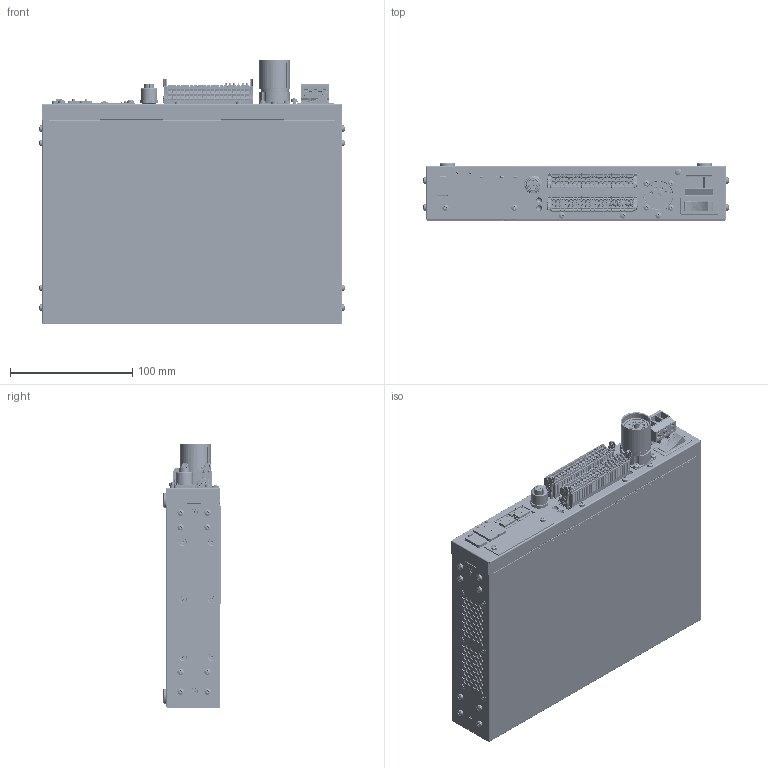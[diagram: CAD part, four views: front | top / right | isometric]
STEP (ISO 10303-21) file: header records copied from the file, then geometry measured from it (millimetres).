
FILE_DESCRIPTION (( 'STEP AP203' ), '1' );
FILE_NAME ('眻霜mini諷秶眊.STEP', '2024-04-16T04:41:45', ( 'hello' ), ( '' ), 'SwSTEP 2.0', 'SolidWorks 2018', '' );
FILE_SCHEMA (( 'CONFIG_CONTROL_DESIGN' ));
Products named in the file (2): 眻霜mini諷秶眊
Bounding box: 249.74 x 46.6 x 216.4 mm (x, y, z)
Surface area: 245440.5 mm2 (no closed solid volume)
Topology: 0 solids, 1202 shells, 24751 faces, 66507 edges, 43073 vertices
Faces by surface type: plane 13934, cylinder 5554, bspline 3003, cone 2206, torus 52, sphere 2
Entity records: 925335 total; most frequent: CARTESIAN_POINT 360303, ORIENTED_EDGE 124707, DIRECTION 98627, EDGE_CURVE 65907, VERTEX_POINT 43067, VECTOR 38143, LINE 38143, AXIS2_PLACEMENT_3D 30242
